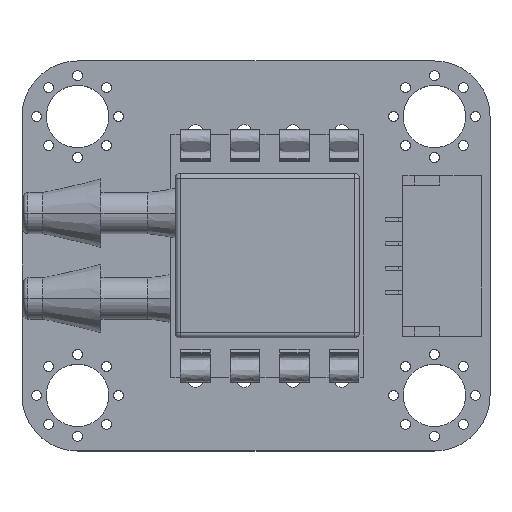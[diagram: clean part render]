
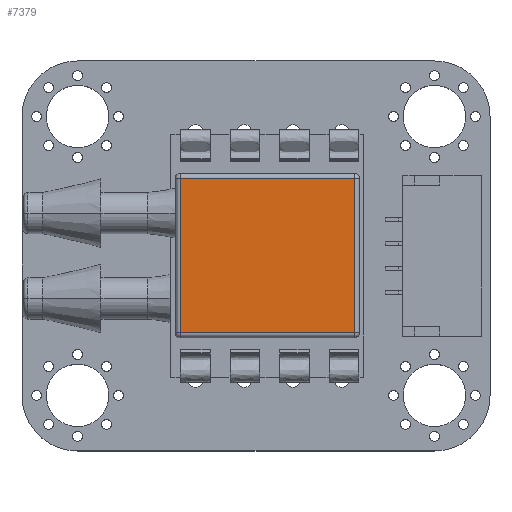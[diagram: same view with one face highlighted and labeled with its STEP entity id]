
A CAD part, top view. The second image highlights one B-rep face of the part: STEP entity #7379.
In plain terms, the highlighted planar face has unit normal (0, 0, 1) as drawn and (0, 1, 0) by its records, which use the part's own axes.
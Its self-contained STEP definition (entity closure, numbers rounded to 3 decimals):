
#7021 = VERTEX_POINT('',#7022);
#7022 = CARTESIAN_POINT('',(3.962,3.632,-0.483));
#7029 = EDGE_CURVE('',#7030,#7021,#7032,.T.);
#7030 = VERTEX_POINT('',#7031);
#7031 = CARTESIAN_POINT('',(-3.962,3.632,-0.483));
#7032 = LINE('',#7033,#7034);
#7033 = CARTESIAN_POINT('',(-3.962,3.632,-0.483));
#7034 = VECTOR('',#7035,1.);
#7035 = DIRECTION('',(1.,0.,0.));
#7079 = EDGE_CURVE('',#7080,#7030,#7082,.T.);
#7080 = VERTEX_POINT('',#7081);
#7081 = CARTESIAN_POINT('',(-3.962,3.632,-9.423));
#7082 = LINE('',#7083,#7084);
#7083 = CARTESIAN_POINT('',(-3.962,3.632,-9.423));
#7084 = VECTOR('',#7085,1.);
#7085 = DIRECTION('',(0.,0.,1.));
#7359 = VERTEX_POINT('',#7360);
#7360 = CARTESIAN_POINT('',(3.962,3.632,-9.423));
#7367 = EDGE_CURVE('',#7021,#7359,#7368,.T.);
#7368 = LINE('',#7369,#7370);
#7369 = CARTESIAN_POINT('',(3.962,3.632,-0.483));
#7370 = VECTOR('',#7371,1.);
#7371 = DIRECTION('',(0.,0.,-1.));
#7379 = ADVANCED_FACE('',(#7380),#7391,.T.);
#7380 = FACE_BOUND('',#7381,.F.);
#7381 = EDGE_LOOP('',(#7382,#7383,#7384,#7390));
#7382 = ORIENTED_EDGE('',*,*,#7029,.F.);
#7383 = ORIENTED_EDGE('',*,*,#7079,.F.);
#7384 = ORIENTED_EDGE('',*,*,#7385,.F.);
#7385 = EDGE_CURVE('',#7359,#7080,#7386,.T.);
#7386 = LINE('',#7387,#7388);
#7387 = CARTESIAN_POINT('',(3.962,3.632,-9.423));
#7388 = VECTOR('',#7389,1.);
#7389 = DIRECTION('',(-1.,0.,0.));
#7390 = ORIENTED_EDGE('',*,*,#7367,.F.);
#7391 = PLANE('',#7392);
#7392 = AXIS2_PLACEMENT_3D('',#7393,#7394,#7395);
#7393 = CARTESIAN_POINT('',(0.,3.632,0.));
#7394 = DIRECTION('',(0.,1.,0.));
#7395 = DIRECTION('',(1.,0.,0.));
